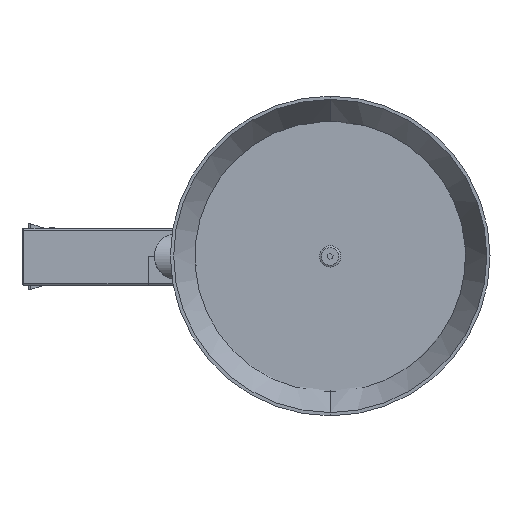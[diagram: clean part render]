
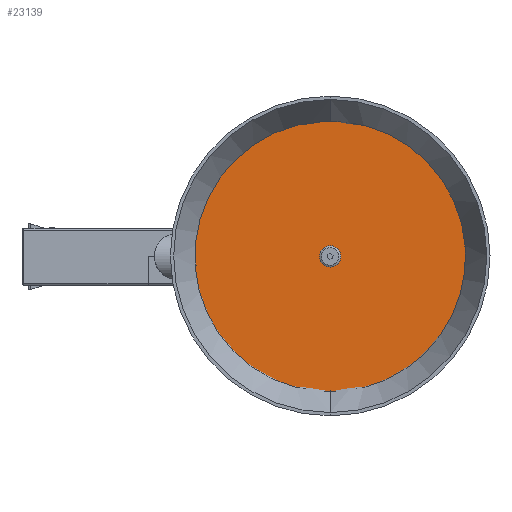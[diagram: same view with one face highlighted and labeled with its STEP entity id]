
A CAD part, top view. The second image highlights one B-rep face of the part: STEP entity #23139.
In plain terms, the highlighted planar face has unit normal (0, 0, 1).
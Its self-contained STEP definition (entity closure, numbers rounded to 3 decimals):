
#3304 = DIRECTION ( 'NONE',  ( -0.997, -0.071, 0. ) ) ;
#12543 = CARTESIAN_POINT ( 'NONE',  ( 17.357, 15.149, 231.229 ) ) ;
#12582 = CARTESIAN_POINT ( 'NONE',  ( 55.385, 17.857, 231.229 ) ) ;
#16682 = AXIS2_PLACEMENT_3D ( 'NONE', #82336, #72396, #35395 ) ;
#16991 = CARTESIAN_POINT ( 'NONE',  ( 17.357, 15.149, 231.229 ) ) ;
#23139 = ADVANCED_FACE ( 'NONE', ( #32943, #71035 ), #70145, .T. ) ;
#24906 = ORIENTED_EDGE ( 'NONE', *, *, #48853, .T. ) ;
#28678 = ORIENTED_EDGE ( 'NONE', *, *, #76037, .F. ) ;
#32583 = AXIS2_PLACEMENT_3D ( 'NONE', #62915, #101672, #46435 ) ;
#32943 = FACE_OUTER_BOUND ( 'NONE', #61473, .T. ) ;
#35395 = DIRECTION ( 'NONE',  ( -0.997, -0.071, 0. ) ) ;
#37755 = CARTESIAN_POINT ( 'NONE',  ( 15.761, 15.035, 231.229 ) ) ;
#39383 = CIRCLE ( 'NONE', #16682, 38.125 ) ;
#43116 = DIRECTION ( 'NONE',  ( 0., 0., 1. ) ) ;
#44705 = DIRECTION ( 'NONE',  ( -0.997, -0.071, 0. ) ) ;
#45321 = VERTEX_POINT ( 'NONE', #87957 ) ;
#46435 = DIRECTION ( 'NONE',  ( -0.997, -0.071, 0. ) ) ;
#48853 = EDGE_CURVE ( 'NONE', #88351, #66632, #65183, .T. ) ;
#49090 = AXIS2_PLACEMENT_3D ( 'NONE', #16991, #71855, #3304 ) ;
#50230 = ORIENTED_EDGE ( 'NONE', *, *, #73823, .T. ) ;
#50614 = DIRECTION ( 'NONE',  ( -0.997, -0.071, 0. ) ) ;
#55068 = CIRCLE ( 'NONE', #49090, 1.6 ) ;
#58238 = EDGE_LOOP ( 'NONE', ( #100791, #28678 ) ) ;
#60977 = EDGE_CURVE ( 'NONE', #45321, #65959, #85906, .T. ) ;
#61473 = EDGE_LOOP ( 'NONE', ( #50230, #24906 ) ) ;
#62915 = CARTESIAN_POINT ( 'NONE',  ( 17.357, 15.149, 231.229 ) ) ;
#64043 = CARTESIAN_POINT ( 'NONE',  ( -20.672, 12.441, 231.229 ) ) ;
#65183 = CIRCLE ( 'NONE', #92680, 38.125 ) ;
#65959 = VERTEX_POINT ( 'NONE', #37755 ) ;
#66632 = VERTEX_POINT ( 'NONE', #64043 ) ;
#67719 = CARTESIAN_POINT ( 'NONE',  ( 17.357, 15.149, 231.229 ) ) ;
#70145 = PLANE ( 'NONE',  #32583 ) ;
#71035 = FACE_BOUND ( 'NONE', #58238, .T. ) ;
#71855 = DIRECTION ( 'NONE',  ( 0., 0., 1. ) ) ;
#72396 = DIRECTION ( 'NONE',  ( 0., 0., 1. ) ) ;
#73209 = AXIS2_PLACEMENT_3D ( 'NONE', #67719, #91674, #44705 ) ;
#73823 = EDGE_CURVE ( 'NONE', #66632, #88351, #39383, .T. ) ;
#76037 = EDGE_CURVE ( 'NONE', #65959, #45321, #55068, .T. ) ;
#82336 = CARTESIAN_POINT ( 'NONE',  ( 17.357, 15.149, 231.229 ) ) ;
#85906 = CIRCLE ( 'NONE', #73209, 1.6 ) ;
#87957 = CARTESIAN_POINT ( 'NONE',  ( 18.952, 15.263, 231.229 ) ) ;
#88351 = VERTEX_POINT ( 'NONE', #12582 ) ;
#91674 = DIRECTION ( 'NONE',  ( 0., 0., 1. ) ) ;
#92680 = AXIS2_PLACEMENT_3D ( 'NONE', #12543, #43116, #50614 ) ;
#100791 = ORIENTED_EDGE ( 'NONE', *, *, #60977, .F. ) ;
#101672 = DIRECTION ( 'NONE',  ( 0., 0., 1. ) ) ;
